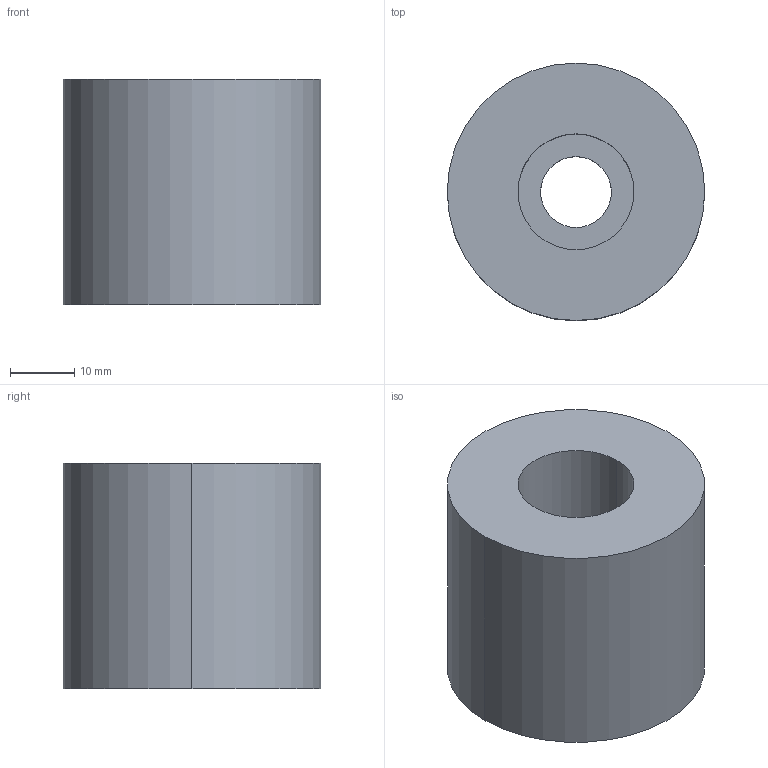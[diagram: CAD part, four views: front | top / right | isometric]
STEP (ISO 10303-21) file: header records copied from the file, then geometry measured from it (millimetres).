
FILE_DESCRIPTION(/* description */ (''),/* implementation_level */ '2;1');
FILE_NAME(/* name */ '3d_azn40-35_03254_r00.stp',/* time_stamp */ '2011-01-10T14:17:33+09:00',/* author */ ('MISUMI'),/* organization */ (''),/* preprocessor_version */ 'ST-DEVELOPER v11',/* originating_system */ 'UGS - NX 5.0',/* authorisation */ '');
FILE_SCHEMA (('CONFIG_CONTROL_DESIGN'));
Length unit declared in the file: millimetre
Products named in the file (1): 3d_azn40-35_03254_r00
Bounding box: 40 x 40 x 35 mm (x, y, z)
Volume: 36670.2 mm3; surface area: 8480.7 mm2
Topology: 1 solids, 1 shells, 9 faces, 18 edges, 12 vertices
Faces by surface type: cylinder 6, plane 3
Entity records: 334 total; most frequent: DIRECTION 50, CARTESIAN_POINT 40, ORIENTED_EDGE 36, AXIS2_PLACEMENT_3D 22, EDGE_CURVE 18, EDGE_LOOP 12, VERTEX_POINT 12, CIRCLE 12
